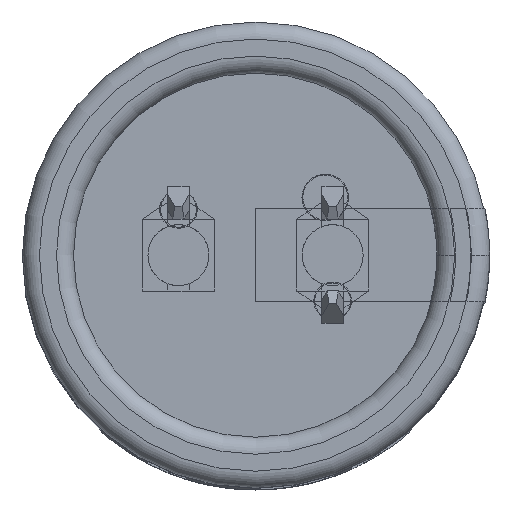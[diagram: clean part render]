
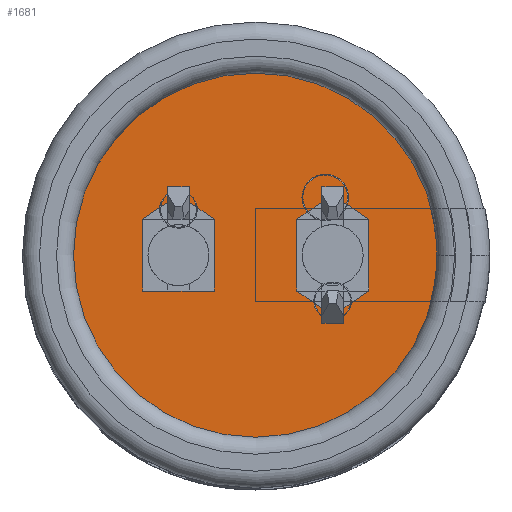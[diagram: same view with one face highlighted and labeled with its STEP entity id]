
A CAD part, top view. The second image highlights one B-rep face of the part: STEP entity #1681.
In plain terms, the highlighted planar face has unit normal (0, 0, 1).
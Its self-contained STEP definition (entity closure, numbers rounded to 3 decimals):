
#1588 = VERTEX_POINT('',#1589);
#1589 = CARTESIAN_POINT('',(10.15,0.,0.01));
#1596 = CYLINDRICAL_SURFACE('',#1597,10.15);
#1597 = AXIS2_PLACEMENT_3D('',#1598,#1599,#1600);
#1598 = CARTESIAN_POINT('',(0.,0.,0.));
#1599 = DIRECTION('',(0.,0.,-1.));
#1600 = DIRECTION('',(1.,0.,0.));
#1615 = EDGE_CURVE('',#1588,#1588,#1616,.T.);
#1616 = SURFACE_CURVE('',#1617,(#1622,#1629),.PCURVE_S1.);
#1617 = CIRCLE('',#1618,10.15);
#1618 = AXIS2_PLACEMENT_3D('',#1619,#1620,#1621);
#1619 = CARTESIAN_POINT('',(0.,0.,0.01));
#1620 = DIRECTION('',(0.,0.,1.));
#1621 = DIRECTION('',(1.,0.,0.));
#1622 = PCURVE('',#1596,#1623);
#1623 = DEFINITIONAL_REPRESENTATION('',(#1624),#1628);
#1624 = LINE('',#1625,#1626);
#1625 = CARTESIAN_POINT('',(0.,-0.01));
#1626 = VECTOR('',#1627,1.);
#1627 = DIRECTION('',(-1.,0.));
#1628 = ( GEOMETRIC_REPRESENTATION_CONTEXT(2) 
PARAMETRIC_REPRESENTATION_CONTEXT() REPRESENTATION_CONTEXT('2D SPACE',''
  ) );
#1629 = PCURVE('',#1630,#1635);
#1630 = PLANE('',#1631);
#1631 = AXIS2_PLACEMENT_3D('',#1632,#1633,#1634);
#1632 = CARTESIAN_POINT('',(10.15,0.,0.01));
#1633 = DIRECTION('',(0.,0.,-1.));
#1634 = DIRECTION('',(-1.,0.,0.));
#1635 = DEFINITIONAL_REPRESENTATION('',(#1636),#1644);
#1636 = ( BOUNDED_CURVE() B_SPLINE_CURVE(2,(#1637,#1638,#1639,#1640,
#1641,#1642,#1643),.UNSPECIFIED.,.F.,.F.) B_SPLINE_CURVE_WITH_KNOTS((1,2
    ,2,2,2,1),(-2.094,0.,2.094,4.189,
6.283,8.378),.UNSPECIFIED.) CURVE() 
GEOMETRIC_REPRESENTATION_ITEM() RATIONAL_B_SPLINE_CURVE((1.,0.5,1.,0.5,
1.,0.5,1.)) REPRESENTATION_ITEM('') );
#1637 = CARTESIAN_POINT('',(0.,0.));
#1638 = CARTESIAN_POINT('',(0.,17.58));
#1639 = CARTESIAN_POINT('',(15.225,8.79));
#1640 = CARTESIAN_POINT('',(30.45,0.));
#1641 = CARTESIAN_POINT('',(15.225,-8.79));
#1642 = CARTESIAN_POINT('',(0.,-17.58));
#1643 = CARTESIAN_POINT('',(0.,0.));
#1644 = ( GEOMETRIC_REPRESENTATION_CONTEXT(2) 
PARAMETRIC_REPRESENTATION_CONTEXT() REPRESENTATION_CONTEXT('2D SPACE',''
  ) );
#1681 = ADVANCED_FACE('',(#1682),#1630,.F.);
#1682 = FACE_BOUND('',#1683,.T.);
#1683 = EDGE_LOOP('',(#1684));
#1684 = ORIENTED_EDGE('',*,*,#1615,.T.);
